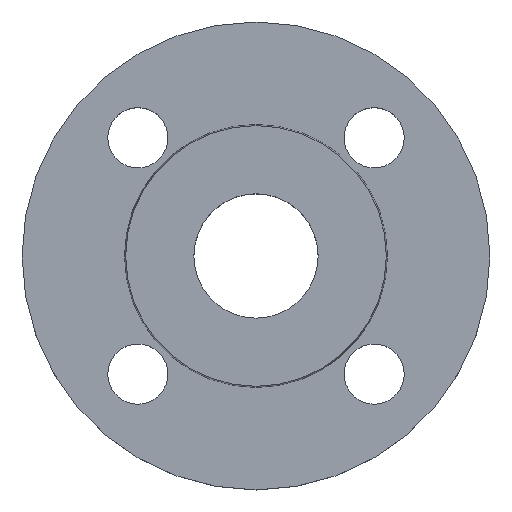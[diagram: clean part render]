
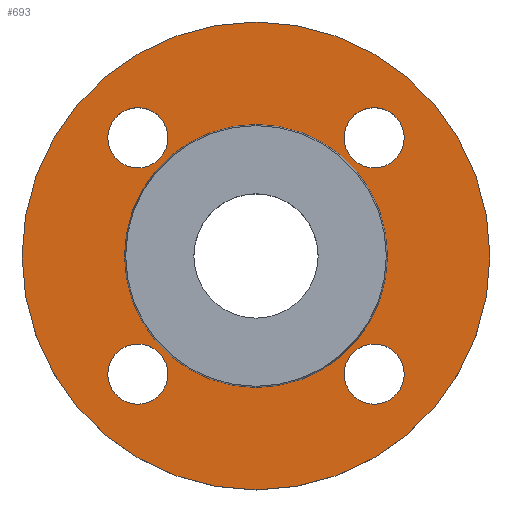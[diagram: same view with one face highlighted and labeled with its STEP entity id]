
A CAD part, top view. The second image highlights one B-rep face of the part: STEP entity #693.
In plain terms, the highlighted planar face has unit normal (0, 0, 1).
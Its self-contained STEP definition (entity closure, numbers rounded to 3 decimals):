
#2 = VERTEX_POINT ( 'NONE', #546 ) ;
#16 = FACE_BOUND ( 'NONE', #253, .T. ) ;
#17 = DIRECTION ( 'NONE',  ( 0., 0., -1. ) ) ;
#23 = EDGE_LOOP ( 'NONE', ( #742, #335 ) ) ;
#37 = ORIENTED_EDGE ( 'NONE', *, *, #741, .T. ) ;
#73 = DIRECTION ( 'NONE',  ( 1., 0., 0. ) ) ;
#80 = EDGE_CURVE ( 'NONE', #297, #444, #146, .T. ) ;
#90 = DIRECTION ( 'NONE',  ( 1., 0., 0. ) ) ;
#99 = EDGE_CURVE ( 'NONE', #2, #688, #177, .T. ) ;
#100 = DIRECTION ( 'NONE',  ( 0., 0., -1. ) ) ;
#105 = DIRECTION ( 'NONE',  ( 0., 0., -1. ) ) ;
#124 = EDGE_LOOP ( 'NONE', ( #591, #724 ) ) ;
#133 = VERTEX_POINT ( 'NONE', #482 ) ;
#143 = EDGE_CURVE ( 'NONE', #439, #819, #261, .T. ) ;
#146 = CIRCLE ( 'NONE', #147, 9. ) ;
#147 = AXIS2_PLACEMENT_3D ( 'NONE', #403, #649, #73 ) ;
#162 = DIRECTION ( 'NONE',  ( 1., 0., 0. ) ) ;
#164 = VERTEX_POINT ( 'NONE', #553 ) ;
#176 = DIRECTION ( 'NONE',  ( 0., 0., -1. ) ) ;
#177 = CIRCLE ( 'NONE', #178, 39.353 ) ;
#178 = AXIS2_PLACEMENT_3D ( 'NONE', #763, #215, #476 ) ;
#180 = EDGE_CURVE ( 'NONE', #164, #746, #270, .T. ) ;
#188 = CIRCLE ( 'NONE', #645, 39.353 ) ;
#193 = ORIENTED_EDGE ( 'NONE', *, *, #180, .T. ) ;
#204 = DIRECTION ( 'NONE',  ( 1., 0., 0. ) ) ;
#212 = AXIS2_PLACEMENT_3D ( 'NONE', #531, #754, #204 ) ;
#215 = DIRECTION ( 'NONE',  ( 0., 0., -1. ) ) ;
#223 = DIRECTION ( 'NONE',  ( -1., 0., 0. ) ) ;
#224 = EDGE_CURVE ( 'NONE', #746, #164, #331, .T. ) ;
#227 = PLANE ( 'NONE',  #527 ) ;
#228 = CIRCLE ( 'NONE', #340, 9. ) ;
#229 = DIRECTION ( 'NONE',  ( 0., 0., -1. ) ) ;
#231 = CARTESIAN_POINT ( 'NONE',  ( 70., 0., -2. ) ) ;
#241 = CARTESIAN_POINT ( 'NONE',  ( -44.355, 35.355, -2. ) ) ;
#245 = CARTESIAN_POINT ( 'NONE',  ( -44.355, -35.355, -2. ) ) ;
#253 = EDGE_LOOP ( 'NONE', ( #193, #822 ) ) ;
#261 = CIRCLE ( 'NONE', #262, 70. ) ;
#262 = AXIS2_PLACEMENT_3D ( 'NONE', #605, #17, #296 ) ;
#263 = DIRECTION ( 'NONE',  ( 0., 0., -1. ) ) ;
#270 = CIRCLE ( 'NONE', #272, 9. ) ;
#272 = AXIS2_PLACEMENT_3D ( 'NONE', #778, #229, #488 ) ;
#282 = ORIENTED_EDGE ( 'NONE', *, *, #80, .T. ) ;
#290 = CARTESIAN_POINT ( 'NONE',  ( 44.355, 35.355, -2. ) ) ;
#295 = FACE_BOUND ( 'NONE', #717, .T. ) ;
#296 = DIRECTION ( 'NONE',  ( -1., 0., 0. ) ) ;
#297 = VERTEX_POINT ( 'NONE', #720 ) ;
#307 = CARTESIAN_POINT ( 'NONE',  ( 35.355, -35.355, -2. ) ) ;
#314 = ORIENTED_EDGE ( 'NONE', *, *, #588, .T. ) ;
#331 = CIRCLE ( 'NONE', #332, 9. ) ;
#332 = AXIS2_PLACEMENT_3D ( 'NONE', #669, #100, #369 ) ;
#335 = ORIENTED_EDGE ( 'NONE', *, *, #143, .F. ) ;
#340 = AXIS2_PLACEMENT_3D ( 'NONE', #307, #564, #789 ) ;
#345 = VERTEX_POINT ( 'NONE', #783 ) ;
#358 = FACE_BOUND ( 'NONE', #533, .T. ) ;
#367 = CIRCLE ( 'NONE', #807, 70. ) ;
#369 = DIRECTION ( 'NONE',  ( 1., 0., 0. ) ) ;
#374 = DIRECTION ( 'NONE',  ( 1., 0., 0. ) ) ;
#400 = AXIS2_PLACEMENT_3D ( 'NONE', #417, #662, #90 ) ;
#403 = CARTESIAN_POINT ( 'NONE',  ( -35.355, -35.355, -2. ) ) ;
#417 = CARTESIAN_POINT ( 'NONE',  ( 35.355, 35.355, -2. ) ) ;
#427 = CARTESIAN_POINT ( 'NONE',  ( -70., 0., -2. ) ) ;
#435 = DIRECTION ( 'NONE',  ( 1., 0., 0. ) ) ;
#439 = VERTEX_POINT ( 'NONE', #427 ) ;
#441 = EDGE_CURVE ( 'NONE', #345, #133, #487, .T. ) ;
#444 = VERTEX_POINT ( 'NONE', #245 ) ;
#452 = EDGE_CURVE ( 'NONE', #686, #470, #507, .T. ) ;
#470 = VERTEX_POINT ( 'NONE', #796 ) ;
#476 = DIRECTION ( 'NONE',  ( -1., 0., 0. ) ) ;
#482 = CARTESIAN_POINT ( 'NONE',  ( 44.355, -35.355, -2. ) ) ;
#486 = CARTESIAN_POINT ( 'NONE',  ( 39.353, 0., -2. ) ) ;
#487 = CIRCLE ( 'NONE', #489, 9. ) ;
#488 = DIRECTION ( 'NONE',  ( 1., 0., 0. ) ) ;
#489 = AXIS2_PLACEMENT_3D ( 'NONE', #672, #105, #374 ) ;
#507 = CIRCLE ( 'NONE', #542, 9. ) ;
#516 = ORIENTED_EDGE ( 'NONE', *, *, #805, .T. ) ;
#522 = DIRECTION ( 'NONE',  ( -1., 0., 0. ) ) ;
#527 = AXIS2_PLACEMENT_3D ( 'NONE', #486, #722, #162 ) ;
#531 = CARTESIAN_POINT ( 'NONE',  ( -35.355, -35.355, -2. ) ) ;
#533 = EDGE_LOOP ( 'NONE', ( #37, #750 ) ) ;
#542 = AXIS2_PLACEMENT_3D ( 'NONE', #734, #176, #435 ) ;
#543 = EDGE_CURVE ( 'NONE', #819, #439, #367, .T. ) ;
#546 = CARTESIAN_POINT ( 'NONE',  ( -39.353, 0., -2. ) ) ;
#547 = CARTESIAN_POINT ( 'NONE',  ( 39.353, 0., -2. ) ) ;
#549 = CARTESIAN_POINT ( 'NONE',  ( 0., 0., -2. ) ) ;
#552 = FACE_BOUND ( 'NONE', #124, .T. ) ;
#553 = CARTESIAN_POINT ( 'NONE',  ( -26.355, 35.355, -2. ) ) ;
#564 = DIRECTION ( 'NONE',  ( 0., 0., -1. ) ) ;
#580 = CIRCLE ( 'NONE', #212, 9. ) ;
#588 = EDGE_CURVE ( 'NONE', #444, #297, #580, .T. ) ;
#591 = ORIENTED_EDGE ( 'NONE', *, *, #99, .T. ) ;
#604 = FACE_BOUND ( 'NONE', #798, .T. ) ;
#605 = CARTESIAN_POINT ( 'NONE',  ( 0., 0., -2. ) ) ;
#645 = AXIS2_PLACEMENT_3D ( 'NONE', #549, #773, #223 ) ;
#649 = DIRECTION ( 'NONE',  ( 0., 0., -1. ) ) ;
#662 = DIRECTION ( 'NONE',  ( 0., 0., -1. ) ) ;
#669 = CARTESIAN_POINT ( 'NONE',  ( -35.355, 35.355, -2. ) ) ;
#670 = ORIENTED_EDGE ( 'NONE', *, *, #452, .T. ) ;
#672 = CARTESIAN_POINT ( 'NONE',  ( 35.355, -35.355, -2. ) ) ;
#686 = VERTEX_POINT ( 'NONE', #290 ) ;
#688 = VERTEX_POINT ( 'NONE', #547 ) ;
#693 = ADVANCED_FACE ( 'NONE', ( #358, #604, #16, #295, #552, #777 ), #227, .T. ) ;
#717 = EDGE_LOOP ( 'NONE', ( #670, #516 ) ) ;
#720 = CARTESIAN_POINT ( 'NONE',  ( -26.355, -35.355, -2. ) ) ;
#722 = DIRECTION ( 'NONE',  ( 0., 0., 1. ) ) ;
#724 = ORIENTED_EDGE ( 'NONE', *, *, #797, .T. ) ;
#734 = CARTESIAN_POINT ( 'NONE',  ( 35.355, 35.355, -2. ) ) ;
#741 = EDGE_CURVE ( 'NONE', #133, #345, #228, .T. ) ;
#742 = ORIENTED_EDGE ( 'NONE', *, *, #543, .F. ) ;
#745 = CIRCLE ( 'NONE', #400, 9. ) ;
#746 = VERTEX_POINT ( 'NONE', #241 ) ;
#750 = ORIENTED_EDGE ( 'NONE', *, *, #441, .T. ) ;
#754 = DIRECTION ( 'NONE',  ( 0., 0., -1. ) ) ;
#763 = CARTESIAN_POINT ( 'NONE',  ( 0., 0., -2. ) ) ;
#773 = DIRECTION ( 'NONE',  ( 0., 0., -1. ) ) ;
#777 = FACE_OUTER_BOUND ( 'NONE', #23, .T. ) ;
#778 = CARTESIAN_POINT ( 'NONE',  ( -35.355, 35.355, -2. ) ) ;
#783 = CARTESIAN_POINT ( 'NONE',  ( 26.355, -35.355, -2. ) ) ;
#789 = DIRECTION ( 'NONE',  ( 1., 0., 0. ) ) ;
#796 = CARTESIAN_POINT ( 'NONE',  ( 26.355, 35.355, -2. ) ) ;
#797 = EDGE_CURVE ( 'NONE', #688, #2, #188, .T. ) ;
#798 = EDGE_LOOP ( 'NONE', ( #282, #314 ) ) ;
#805 = EDGE_CURVE ( 'NONE', #470, #686, #745, .T. ) ;
#807 = AXIS2_PLACEMENT_3D ( 'NONE', #810, #263, #522 ) ;
#810 = CARTESIAN_POINT ( 'NONE',  ( 0., 0., -2. ) ) ;
#819 = VERTEX_POINT ( 'NONE', #231 ) ;
#822 = ORIENTED_EDGE ( 'NONE', *, *, #224, .T. ) ;
